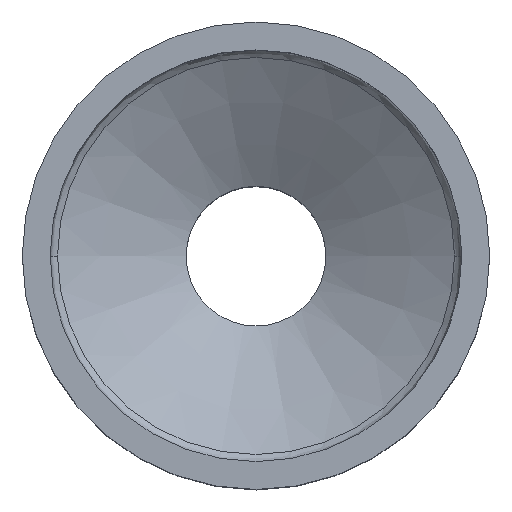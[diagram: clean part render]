
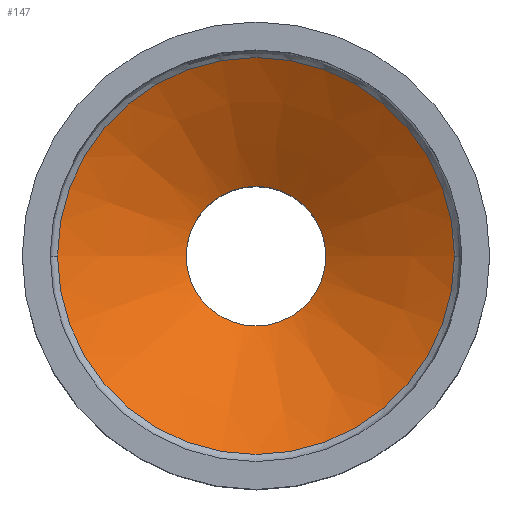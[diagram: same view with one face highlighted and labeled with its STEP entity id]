
A CAD part, top view. The second image highlights one B-rep face of the part: STEP entity #147.
In plain terms, the highlighted conical face has half-angle 60 degrees and reference radius 4.75 mm.
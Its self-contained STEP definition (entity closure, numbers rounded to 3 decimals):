
#79 = AXIS2_PLACEMENT_3D ( 'NONE', #338, #337, #336 ) ;
#88 = FACE_OUTER_BOUND ( 'NONE', #428, .T. ) ;
#90 = FACE_BOUND ( 'NONE', #415, .T. ) ;
#98 = AXIS2_PLACEMENT_3D ( 'NONE', #250, #245, #244 ) ;
#103 = AXIS2_PLACEMENT_3D ( 'NONE', #233, #235, #236 ) ;
#111 = AXIS2_PLACEMENT_3D ( 'NONE', #482, #507, #481 ) ;
#127 = EDGE_CURVE ( 'NONE', #497, #480, #172, .T. ) ;
#135 = EDGE_CURVE ( 'NONE', #480, #497, #180, .T. ) ;
#139 = EDGE_CURVE ( 'NONE', #559, #559, #183, .T. ) ;
#147 = ADVANCED_FACE ( 'NONE', ( #88, #90 ), #190, .F. ) ;
#172 = CIRCLE ( 'NONE', #111, 13.5 ) ;
#180 = CIRCLE ( 'NONE', #103, 13.5 ) ;
#183 = CIRCLE ( 'NONE', #98, 4.75 ) ;
#190 = CONICAL_SURFACE ( 'NONE', #79, 4.75, 1.047 ) ;
#233 = CARTESIAN_POINT ( 'NONE',  ( 0., 0., -10.366 ) ) ;
#235 = DIRECTION ( 'NONE',  ( 0., 0., 1. ) ) ;
#236 = DIRECTION ( 'NONE',  ( 0., -1., 0. ) ) ;
#244 = DIRECTION ( 'NONE',  ( 1., 0., 0. ) ) ;
#245 = DIRECTION ( 'NONE',  ( 0., 0., -1. ) ) ;
#250 = CARTESIAN_POINT ( 'NONE',  ( 0., 0., -15.418 ) ) ;
#336 = DIRECTION ( 'NONE',  ( 1., 0., 0. ) ) ;
#337 = DIRECTION ( 'NONE',  ( 0., 0., 1. ) ) ;
#338 = CARTESIAN_POINT ( 'NONE',  ( 0., 0., -15.418 ) ) ;
#415 = EDGE_LOOP ( 'NONE', ( #465 ) ) ;
#428 = EDGE_LOOP ( 'NONE', ( #450, #451 ) ) ;
#450 = ORIENTED_EDGE ( 'NONE', *, *, #135, .T. ) ;
#451 = ORIENTED_EDGE ( 'NONE', *, *, #127, .T. ) ;
#465 = ORIENTED_EDGE ( 'NONE', *, *, #139, .T. ) ;
#480 = VERTEX_POINT ( 'NONE', #541 ) ;
#481 = DIRECTION ( 'NONE',  ( 0., -1., 0. ) ) ;
#482 = CARTESIAN_POINT ( 'NONE',  ( 0., 0., -10.366 ) ) ;
#497 = VERTEX_POINT ( 'NONE', #544 ) ;
#507 = DIRECTION ( 'NONE',  ( 0., 0., 1. ) ) ;
#541 = CARTESIAN_POINT ( 'NONE',  ( 13.5, 0., -10.366 ) ) ;
#544 = CARTESIAN_POINT ( 'NONE',  ( -13.5, 0., -10.366 ) ) ;
#558 = CARTESIAN_POINT ( 'NONE',  ( 4.75, 0., -15.418 ) ) ;
#559 = VERTEX_POINT ( 'NONE', #558 ) ;
